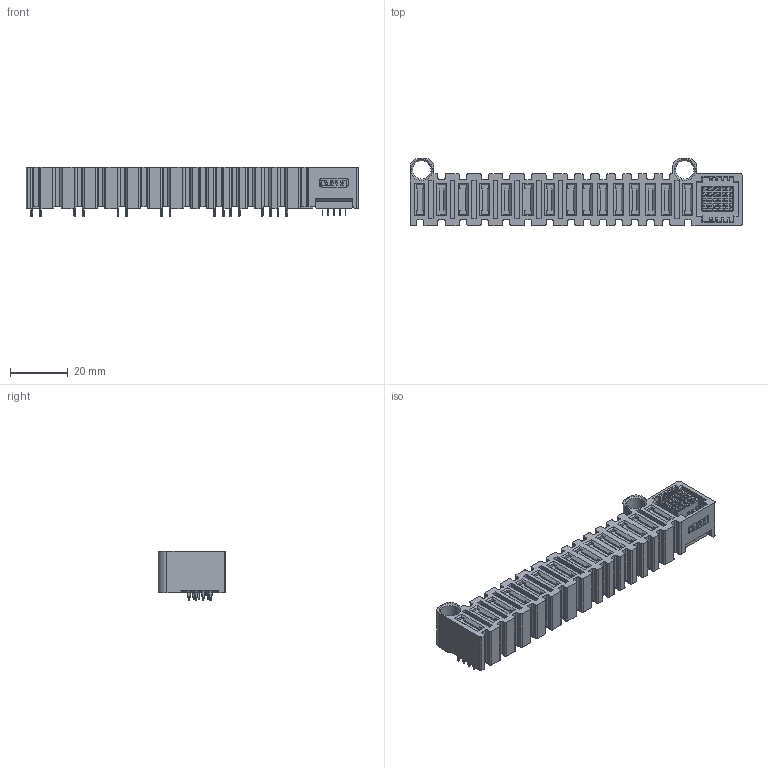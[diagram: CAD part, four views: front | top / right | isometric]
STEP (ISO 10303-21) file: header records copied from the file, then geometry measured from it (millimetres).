
FILE_DESCRIPTION (( 'STEP AP214' ), '1' );
FILE_NAME ('9395-2A7AD7AA1S25B71PNG1A-L036.STEP', '2023-09-14T10:31:06', ( '' ), ( '' ), 'SwSTEP 2.0', 'SolidWorks 2011', '' );
FILE_SCHEMA (( 'AUTOMOTIVE_DESIGN' ));
Length unit declared in the file: millimetre
Products named in the file (1): 9395-2A7AD7AA1S25B71PNG1A-L036
Bounding box: 115.21 x 23.37 x 17.21 mm (x, y, z)
Volume: 25145.5 mm3; surface area: 12686.5 mm2
Topology: 1 solids, 1 shells, 4250 faces, 11312 edges, 7212 vertices
Faces by surface type: plane 2025, cylinder 955, torus 728, bspline 534, cone 8
Entity records: 194779 total; most frequent: CARTESIAN_POINT 47580, ORIENTED_EDGE 22624, DIRECTION 18850, EDGE_CURVE 11312, VERTEX_POINT 7212, AXIS2_PLACEMENT_3D 6552, LINE 5746, VECTOR 5746
